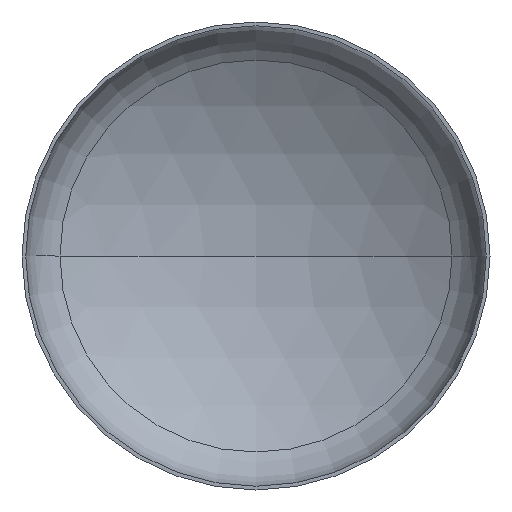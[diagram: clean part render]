
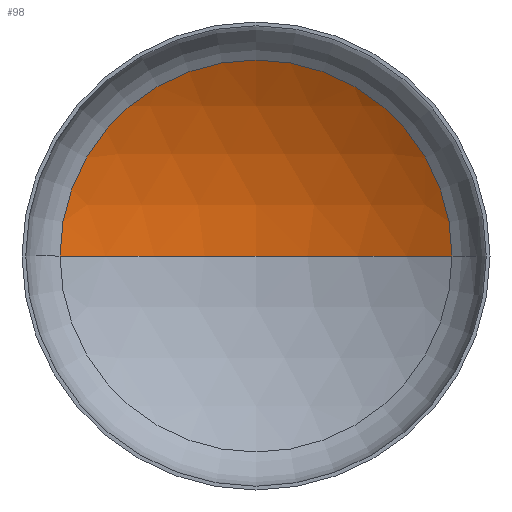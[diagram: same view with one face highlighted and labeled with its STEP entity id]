
A CAD part, front view. The second image highlights one B-rep face of the part: STEP entity #98.
In plain terms, the highlighted spherical face has radius 4400 mm.
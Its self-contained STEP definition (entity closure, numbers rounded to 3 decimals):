
#10 = CARTESIAN_POINT ( 'NONE',  ( 0., -2888.977, 0. ) ) ;
#13 = DIRECTION ( 'NONE',  ( 1., 0., 0. ) ) ;
#21 = VERTEX_POINT ( 'NONE', #214 ) ;
#43 = DIRECTION ( 'NONE',  ( 0., 0., 1. ) ) ;
#46 = VERTEX_POINT ( 'NONE', #316 ) ;
#59 = ORIENTED_EDGE ( 'NONE', *, *, #404, .F. ) ;
#74 = ORIENTED_EDGE ( 'NONE', *, *, #344, .T. ) ;
#98 = ADVANCED_FACE ( 'NONE', ( #102 ), #351, .F. ) ;
#102 = FACE_OUTER_BOUND ( 'NONE', #174, .T. ) ;
#105 = DIRECTION ( 'NONE',  ( 0., 0., -1. ) ) ;
#108 = CIRCLE ( 'NONE', #387, 4400. ) ;
#169 = DIRECTION ( 'NONE',  ( -1., 0., 0. ) ) ;
#174 = EDGE_LOOP ( 'NONE', ( #59, #360, #74 ) ) ;
#208 = DIRECTION ( 'NONE',  ( 0., -1., 0. ) ) ;
#214 = CARTESIAN_POINT ( 'NONE',  ( 2303.347, 859.968, 0. ) ) ;
#235 = CARTESIAN_POINT ( 'NONE',  ( 0., -2888.977, 0. ) ) ;
#250 = VERTEX_POINT ( 'NONE', #405 ) ;
#268 = DIRECTION ( 'NONE',  ( 1., 0., 0. ) ) ;
#278 = DIRECTION ( 'NONE',  ( 0., 0., -1. ) ) ;
#279 = CARTESIAN_POINT ( 'NONE',  ( 0., -2888.977, 0. ) ) ;
#283 = AXIS2_PLACEMENT_3D ( 'NONE', #304, #208, #13 ) ;
#304 = CARTESIAN_POINT ( 'NONE',  ( 0., 859.968, 0. ) ) ;
#316 = CARTESIAN_POINT ( 'NONE',  ( 0., 1511.023, 0. ) ) ;
#332 = DIRECTION ( 'NONE',  ( -1., 0., 0. ) ) ;
#344 = EDGE_CURVE ( 'NONE', #21, #250, #373, .T. ) ;
#351 = SPHERICAL_SURFACE ( 'NONE', #355, 4400. ) ;
#355 = AXIS2_PLACEMENT_3D ( 'NONE', #279, #278, #169 ) ;
#360 = ORIENTED_EDGE ( 'NONE', *, *, #382, .T. ) ;
#365 = CIRCLE ( 'NONE', #368, 4400. ) ;
#368 = AXIS2_PLACEMENT_3D ( 'NONE', #10, #105, #332 ) ;
#373 = CIRCLE ( 'NONE', #283, 2303.347 ) ;
#382 = EDGE_CURVE ( 'NONE', #46, #21, #365, .T. ) ;
#387 = AXIS2_PLACEMENT_3D ( 'NONE', #235, #43, #268 ) ;
#404 = EDGE_CURVE ( 'NONE', #46, #250, #108, .T. ) ;
#405 = CARTESIAN_POINT ( 'NONE',  ( -2303.347, 859.968, 0. ) ) ;
